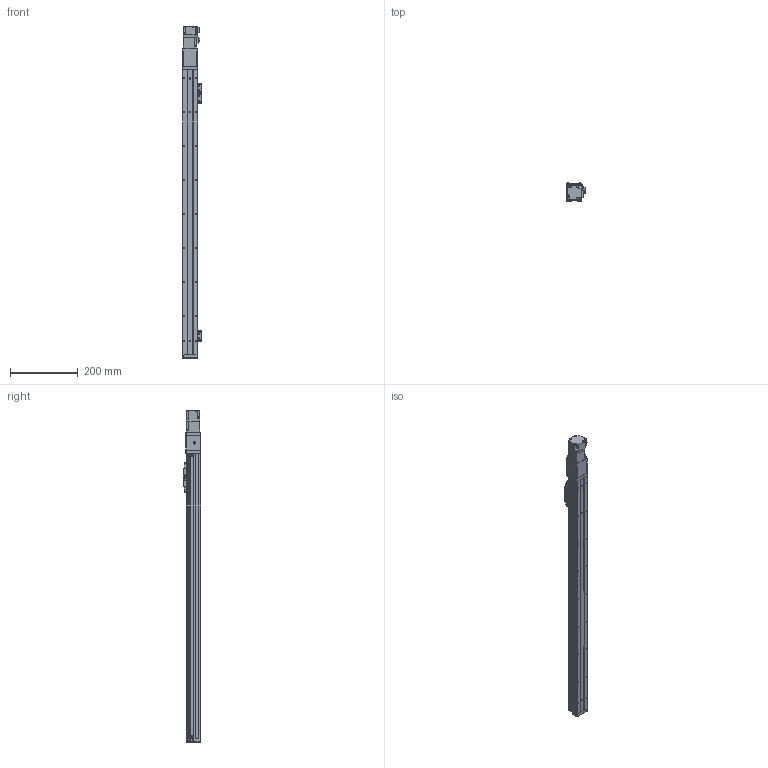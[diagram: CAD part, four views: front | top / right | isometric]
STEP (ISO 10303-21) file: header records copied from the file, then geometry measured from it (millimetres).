
FILE_DESCRIPTION (( 'STEP AP203' ), '1' );
FILE_NAME ('GTH4-700-BC-M05-C4.step', '2023-08-28T00:39:57', ( '微软用户' ), ( '微软中国' ), 'SwSTEP 2.0', 'SolidWorks 2020', '' );
FILE_SCHEMA (( 'CONFIG_CONTROL_DESIGN' ));
Length unit declared in the file: millimetre
Products named in the file (19): BTH40-006; GBT96.1-2002 3×0.8; BTH40-017_笢俶; BTH-M3X5X6; BTH40-022; BTH40-005-1; GBT70.1-2000 M3×16; GBT 70.1-M2.5×6; GTH4-700-BC-M05-C4; BTH50-028; BTH40-004; BTH50-023; BTH40-013; BTH40-001-50_BTH40-001-700; BTH50-024; HG-KR13; BTH40-003; GBT 70.1-M3℅6; GBT 70.3-M3℅6
Assembly tree (49 placements, depth 2):
  GTH4-700-BC-M05-C4
    BTH40-001-50_BTH40-001-700
    BTH40-003
    BTH40-006
    BTH-M3X5X6  x10
    GBT70.1-2000 M3×16  x4
    BTH50-028  x2
    BTH50-023  x3
    BTH50-024  x3
    GBT 70.1-M3℅6  x6
    GBT96.1-2002 3×0.8  x6
    BTH40-022
    GBT 70.1-M2.5×6  x2
    BTH40-004
    BTH40-013
    HG-KR13
    GBT 70.3-M3℅6  x4
    BTH40-017_笢俶
    BTH40-005-1
Bounding box: 55.2 x 52 x 979.4 mm (x, y, z)
Volume: 1507886.4 mm3; surface area: 266510.9 mm2
Topology: 51 solids, 51 shells, 1872 faces, 4398 edges, 2718 vertices
Faces by surface type: plane 1026, cylinder 473, cone 237, torus 132, sphere 4
Entity records: 34588 total; most frequent: DIRECTION 5601, CARTESIAN_POINT 5595, ORIENTED_EDGE 5258, EDGE_CURVE 2629, AXIS2_PLACEMENT_3D 1887, VECTOR 1827, LINE 1827, VERTEX_POINT 1649
